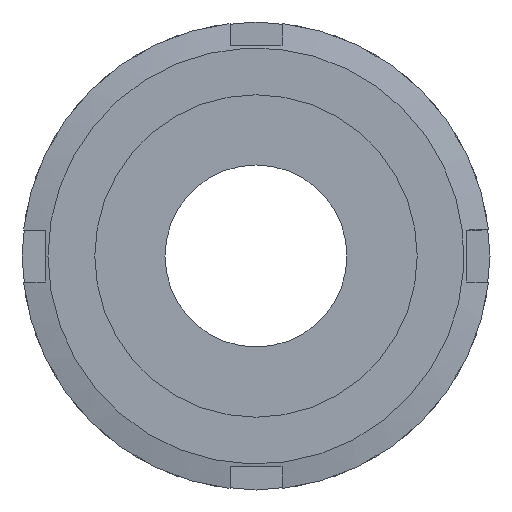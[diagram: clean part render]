
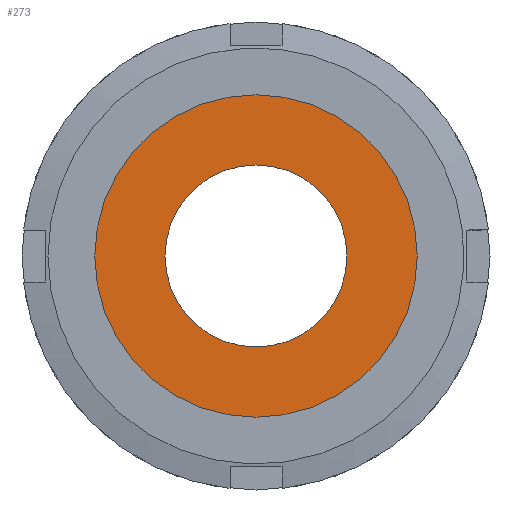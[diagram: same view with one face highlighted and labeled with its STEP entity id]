
A CAD part, left-side view. The second image highlights one B-rep face of the part: STEP entity #273.
In plain terms, the highlighted planar face has unit normal (-1, 0, 0) as drawn and (0, -1, 0) by its records, which use the part's own axes.
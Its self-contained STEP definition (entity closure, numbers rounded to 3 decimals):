
#273 = ADVANCED_FACE( '', ( #402, #403 ), #404, .T. );
#402 = FACE_OUTER_BOUND( '', #610, .T. );
#403 = FACE_BOUND( '', #611, .T. );
#404 = PLANE( '', #612 );
#610 = EDGE_LOOP( '', ( #961 ) );
#611 = EDGE_LOOP( '', ( #962 ) );
#612 = AXIS2_PLACEMENT_3D( '', #963, #964, #965 );
#961 = ORIENTED_EDGE( '', *, *, #1422, .T. );
#962 = ORIENTED_EDGE( '', *, *, #1423, .F. );
#963 = CARTESIAN_POINT( '', ( 8.75, 0., 0. ) );
#964 = DIRECTION( '', ( 0., -1., 0. ) );
#965 = DIRECTION( '', ( 0., 0., -1. ) );
#1422 = EDGE_CURVE( '', #1649, #1649, #1650, .T. );
#1423 = EDGE_CURVE( '', #1651, #1651, #1652, .T. );
#1649 = VERTEX_POINT( '', #2105 );
#1650 = CIRCLE( '', #2106, 15.5 );
#1651 = VERTEX_POINT( '', #2107 );
#1652 = CIRCLE( '', #2108, 8.75 );
#2105 = CARTESIAN_POINT( '', ( 0., 0., -15.5 ) );
#2106 = AXIS2_PLACEMENT_3D( '', #2580, #2581, #2582 );
#2107 = CARTESIAN_POINT( '', ( 0., 0., -8.75 ) );
#2108 = AXIS2_PLACEMENT_3D( '', #2583, #2584, #2585 );
#2580 = CARTESIAN_POINT( '', ( 0., 0., 0. ) );
#2581 = DIRECTION( '', ( 0., -1., 0. ) );
#2582 = DIRECTION( '', ( 0., 0., -1. ) );
#2583 = CARTESIAN_POINT( '', ( 0., 0., 0. ) );
#2584 = DIRECTION( '', ( 0., -1., 0. ) );
#2585 = DIRECTION( '', ( 0., 0., -1. ) );
